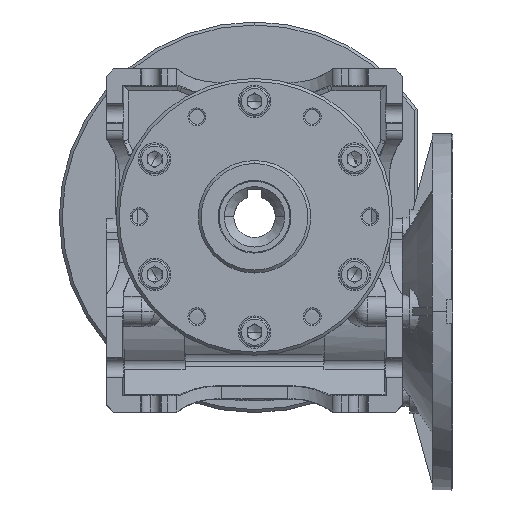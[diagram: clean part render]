
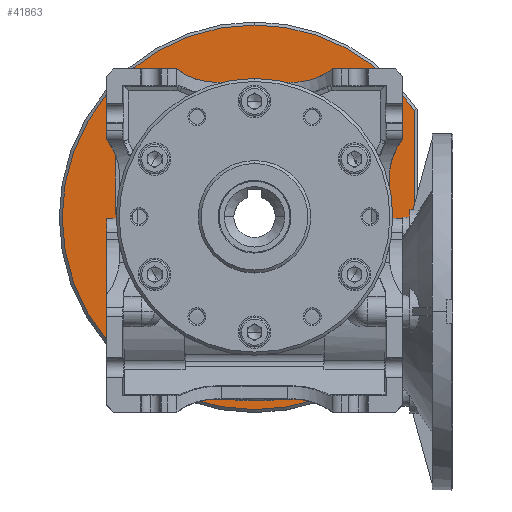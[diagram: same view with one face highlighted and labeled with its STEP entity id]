
A CAD part, top view. The second image highlights one B-rep face of the part: STEP entity #41863.
In plain terms, the highlighted planar face has unit normal (0, 0, 1).
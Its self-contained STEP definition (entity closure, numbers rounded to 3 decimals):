
#649 = EDGE_LOOP ( 'NONE', ( #20050, #65725 ) ) ;
#1006 = CIRCLE ( 'NONE', #42146, 4.5 ) ;
#2009 = ORIENTED_EDGE ( 'NONE', *, *, #88676, .T. ) ;
#2526 = EDGE_CURVE ( 'NONE', #70479, #32187, #38987, .T. ) ;
#3095 = EDGE_CURVE ( 'NONE', #59495, #73204, #62604, .T. ) ;
#3189 = VERTEX_POINT ( 'NONE', #60246 ) ;
#3521 = CARTESIAN_POINT ( 'NONE',  ( 0., 0., -49. ) ) ;
#3876 = FACE_BOUND ( 'NONE', #56455, .T. ) ;
#4302 = AXIS2_PLACEMENT_3D ( 'NONE', #80099, #24009, #72729 ) ;
#4776 = FACE_BOUND ( 'NONE', #649, .T. ) ;
#6154 = EDGE_CURVE ( 'NONE', #16401, #67350, #33725, .T. ) ;
#6454 = VERTEX_POINT ( 'NONE', #72289 ) ;
#7330 = EDGE_LOOP ( 'NONE', ( #42569, #69661, #27281, #41703 ) ) ;
#8121 = EDGE_CURVE ( 'NONE', #29214, #16401, #18220, .T. ) ;
#8459 = CARTESIAN_POINT ( 'NONE',  ( 54., -36.18, -49. ) ) ;
#9123 = CARTESIAN_POINT ( 'NONE',  ( 0., 0., -49. ) ) ;
#10802 = FACE_BOUND ( 'NONE', #61358, .T. ) ;
#11061 = DIRECTION ( 'NONE',  ( 0., 0., -1. ) ) ;
#12328 = DIRECTION ( 'NONE',  ( 0., 1., 0. ) ) ;
#12462 = CARTESIAN_POINT ( 'NONE',  ( 0., 0., -49. ) ) ;
#14251 = CARTESIAN_POINT ( 'NONE',  ( 0., 65., -49. ) ) ;
#14255 = DIRECTION ( 'NONE',  ( 0., -1., 0. ) ) ;
#14999 = EDGE_CURVE ( 'NONE', #59532, #29214, #43056, .T. ) ;
#15601 = AXIS2_PLACEMENT_3D ( 'NONE', #17039, #50644, #78655 ) ;
#16401 = VERTEX_POINT ( 'NONE', #18233 ) ;
#17039 = CARTESIAN_POINT ( 'NONE',  ( -40.659, 40.659, -49. ) ) ;
#18220 = LINE ( 'NONE', #24674, #20828 ) ;
#18233 = CARTESIAN_POINT ( 'NONE',  ( 54., 36.18, -49. ) ) ;
#18932 = CARTESIAN_POINT ( 'NONE',  ( -40.659, 45.159, -49. ) ) ;
#19246 = DIRECTION ( 'NONE',  ( 0., 0., -1. ) ) ;
#19663 = EDGE_CURVE ( 'NONE', #69265, #25577, #74499, .T. ) ;
#19719 = CARTESIAN_POINT ( 'NONE',  ( 40.659, -40.659, -49. ) ) ;
#20050 = ORIENTED_EDGE ( 'NONE', *, *, #83623, .T. ) ;
#20346 = VERTEX_POINT ( 'NONE', #36545 ) ;
#20828 = VECTOR ( 'NONE', #24228, 1000. ) ;
#21684 = AXIS2_PLACEMENT_3D ( 'NONE', #50439, #29742, #78461 ) ;
#22209 = DIRECTION ( 'NONE',  ( 0., -1., 0. ) ) ;
#22687 = CIRCLE ( 'NONE', #66729, 4.5 ) ;
#24009 = DIRECTION ( 'NONE',  ( 0., 0., -1. ) ) ;
#24228 = DIRECTION ( 'NONE',  ( 0., 1., 0. ) ) ;
#24674 = CARTESIAN_POINT ( 'NONE',  ( 54., 0., -49. ) ) ;
#25577 = VERTEX_POINT ( 'NONE', #61500 ) ;
#26166 = CIRCLE ( 'NONE', #21684, 4.5 ) ;
#27179 = DIRECTION ( 'NONE',  ( 0., -1., 0. ) ) ;
#27281 = ORIENTED_EDGE ( 'NONE', *, *, #14999, .T. ) ;
#27494 = CARTESIAN_POINT ( 'NONE',  ( 40.659, 36.159, -49. ) ) ;
#27727 = EDGE_CURVE ( 'NONE', #32187, #70479, #22687, .T. ) ;
#29214 = VERTEX_POINT ( 'NONE', #8459 ) ;
#29617 = ORIENTED_EDGE ( 'NONE', *, *, #27727, .T. ) ;
#29742 = DIRECTION ( 'NONE',  ( 0., 0., -1. ) ) ;
#32187 = VERTEX_POINT ( 'NONE', #75486 ) ;
#32744 = DIRECTION ( 'NONE',  ( 0., 0., 1. ) ) ;
#33556 = EDGE_LOOP ( 'NONE', ( #2009, #57962 ) ) ;
#33725 = CIRCLE ( 'NONE', #60077, 65. ) ;
#34895 = AXIS2_PLACEMENT_3D ( 'NONE', #54182, #19246, #12328 ) ;
#35636 = EDGE_CURVE ( 'NONE', #6454, #64239, #26166, .T. ) ;
#36310 = DIRECTION ( 'NONE',  ( 0., 0., 1. ) ) ;
#36425 = ORIENTED_EDGE ( 'NONE', *, *, #2526, .T. ) ;
#36545 = CARTESIAN_POINT ( 'NONE',  ( -40.659, -45.159, -49. ) ) ;
#37365 = DIRECTION ( 'NONE',  ( 0., -1., 0. ) ) ;
#37764 = AXIS2_PLACEMENT_3D ( 'NONE', #12462, #32744, #27179 ) ;
#38139 = CIRCLE ( 'NONE', #4302, 4.5 ) ;
#38987 = CIRCLE ( 'NONE', #46368, 4.5 ) ;
#39120 = DIRECTION ( 'NONE',  ( 0., 1., 0. ) ) ;
#39762 = DIRECTION ( 'NONE',  ( 0., -1., 0. ) ) ;
#41703 = ORIENTED_EDGE ( 'NONE', *, *, #8121, .T. ) ;
#41863 = ADVANCED_FACE ( 'NONE', ( #82054, #59545, #3876, #10802, #59096, #4776 ), #52216, .F. ) ;
#42146 = AXIS2_PLACEMENT_3D ( 'NONE', #19719, #54658, #48217 ) ;
#42569 = ORIENTED_EDGE ( 'NONE', *, *, #6154, .T. ) ;
#43056 = CIRCLE ( 'NONE', #51860, 65. ) ;
#44993 = CIRCLE ( 'NONE', #68471, 4.5 ) ;
#45862 = ORIENTED_EDGE ( 'NONE', *, *, #84326, .T. ) ;
#45963 = CARTESIAN_POINT ( 'NONE',  ( 40.659, 40.659, -49. ) ) ;
#46368 = AXIS2_PLACEMENT_3D ( 'NONE', #83871, #78317, #63178 ) ;
#46588 = CIRCLE ( 'NONE', #37764, 65. ) ;
#48217 = DIRECTION ( 'NONE',  ( 0., -1., 0. ) ) ;
#48375 = ORIENTED_EDGE ( 'NONE', *, *, #3095, .T. ) ;
#50439 = CARTESIAN_POINT ( 'NONE',  ( 40.659, -40.659, -49. ) ) ;
#50644 = DIRECTION ( 'NONE',  ( 0., 0., -1. ) ) ;
#51081 = CIRCLE ( 'NONE', #57048, 4.5 ) ;
#51613 = CARTESIAN_POINT ( 'NONE',  ( -40.659, -40.659, -49. ) ) ;
#51860 = AXIS2_PLACEMENT_3D ( 'NONE', #9123, #36310, #14255 ) ;
#52216 = PLANE ( 'NONE',  #86004 ) ;
#52311 = DIRECTION ( 'NONE',  ( 0., 0., 1. ) ) ;
#54182 = CARTESIAN_POINT ( 'NONE',  ( 0., 0., -49. ) ) ;
#54658 = DIRECTION ( 'NONE',  ( 0., 0., -1. ) ) ;
#56455 = EDGE_LOOP ( 'NONE', ( #48375, #66976 ) ) ;
#57048 = AXIS2_PLACEMENT_3D ( 'NONE', #84290, #85189, #22209 ) ;
#57225 = CIRCLE ( 'NONE', #68989, 45.75 ) ;
#57503 = EDGE_CURVE ( 'NONE', #3189, #20346, #38139, .T. ) ;
#57962 = ORIENTED_EDGE ( 'NONE', *, *, #19663, .T. ) ;
#59096 = FACE_BOUND ( 'NONE', #84508, .T. ) ;
#59495 = VERTEX_POINT ( 'NONE', #74381 ) ;
#59532 = VERTEX_POINT ( 'NONE', #89965 ) ;
#59545 = FACE_OUTER_BOUND ( 'NONE', #7330, .T. ) ;
#60077 = AXIS2_PLACEMENT_3D ( 'NONE', #3521, #52311, #86302 ) ;
#60246 = CARTESIAN_POINT ( 'NONE',  ( -40.659, -36.159, -49. ) ) ;
#61358 = EDGE_LOOP ( 'NONE', ( #36425, #29617 ) ) ;
#61500 = CARTESIAN_POINT ( 'NONE',  ( 0., 45.75, -49. ) ) ;
#62604 = CIRCLE ( 'NONE', #15601, 4.5 ) ;
#63178 = DIRECTION ( 'NONE',  ( 0., -1., 0. ) ) ;
#64239 = VERTEX_POINT ( 'NONE', #65568 ) ;
#65568 = CARTESIAN_POINT ( 'NONE',  ( 40.659, -36.159, -49. ) ) ;
#65725 = ORIENTED_EDGE ( 'NONE', *, *, #57503, .T. ) ;
#65844 = DIRECTION ( 'NONE',  ( 0., 0., -1. ) ) ;
#66729 = AXIS2_PLACEMENT_3D ( 'NONE', #45963, #79989, #73051 ) ;
#66976 = ORIENTED_EDGE ( 'NONE', *, *, #73123, .T. ) ;
#67349 = CARTESIAN_POINT ( 'NONE',  ( -19., 0., -49. ) ) ;
#67350 = VERTEX_POINT ( 'NONE', #14251 ) ;
#67832 = ORIENTED_EDGE ( 'NONE', *, *, #35636, .T. ) ;
#68471 = AXIS2_PLACEMENT_3D ( 'NONE', #51613, #65844, #37365 ) ;
#68989 = AXIS2_PLACEMENT_3D ( 'NONE', #75420, #11061, #39120 ) ;
#69265 = VERTEX_POINT ( 'NONE', #74393 ) ;
#69661 = ORIENTED_EDGE ( 'NONE', *, *, #72068, .T. ) ;
#70479 = VERTEX_POINT ( 'NONE', #27494 ) ;
#72068 = EDGE_CURVE ( 'NONE', #67350, #59532, #46588, .T. ) ;
#72289 = CARTESIAN_POINT ( 'NONE',  ( 40.659, -45.159, -49. ) ) ;
#72729 = DIRECTION ( 'NONE',  ( 0., -1., 0. ) ) ;
#73051 = DIRECTION ( 'NONE',  ( 0., -1., 0. ) ) ;
#73123 = EDGE_CURVE ( 'NONE', #73204, #59495, #51081, .T. ) ;
#73204 = VERTEX_POINT ( 'NONE', #18932 ) ;
#74381 = CARTESIAN_POINT ( 'NONE',  ( -40.659, 36.159, -49. ) ) ;
#74393 = CARTESIAN_POINT ( 'NONE',  ( 0., -45.75, -49. ) ) ;
#74499 = CIRCLE ( 'NONE', #34895, 45.75 ) ;
#74689 = DIRECTION ( 'NONE',  ( 0., 0., -1. ) ) ;
#75420 = CARTESIAN_POINT ( 'NONE',  ( 0., 0., -49. ) ) ;
#75486 = CARTESIAN_POINT ( 'NONE',  ( 40.659, 45.159, -49. ) ) ;
#78317 = DIRECTION ( 'NONE',  ( 0., 0., -1. ) ) ;
#78461 = DIRECTION ( 'NONE',  ( 0., -1., 0. ) ) ;
#78655 = DIRECTION ( 'NONE',  ( 0., -1., 0. ) ) ;
#79989 = DIRECTION ( 'NONE',  ( 0., 0., -1. ) ) ;
#80099 = CARTESIAN_POINT ( 'NONE',  ( -40.659, -40.659, -49. ) ) ;
#82054 = FACE_BOUND ( 'NONE', #33556, .T. ) ;
#83623 = EDGE_CURVE ( 'NONE', #20346, #3189, #44993, .T. ) ;
#83871 = CARTESIAN_POINT ( 'NONE',  ( 40.659, 40.659, -49. ) ) ;
#84290 = CARTESIAN_POINT ( 'NONE',  ( -40.659, 40.659, -49. ) ) ;
#84326 = EDGE_CURVE ( 'NONE', #64239, #6454, #1006, .T. ) ;
#84508 = EDGE_LOOP ( 'NONE', ( #67832, #45862 ) ) ;
#85189 = DIRECTION ( 'NONE',  ( 0., 0., -1. ) ) ;
#86004 = AXIS2_PLACEMENT_3D ( 'NONE', #67349, #74689, #39762 ) ;
#86302 = DIRECTION ( 'NONE',  ( 0., -1., 0. ) ) ;
#88676 = EDGE_CURVE ( 'NONE', #25577, #69265, #57225, .T. ) ;
#89965 = CARTESIAN_POINT ( 'NONE',  ( 0., -65., -49. ) ) ;
